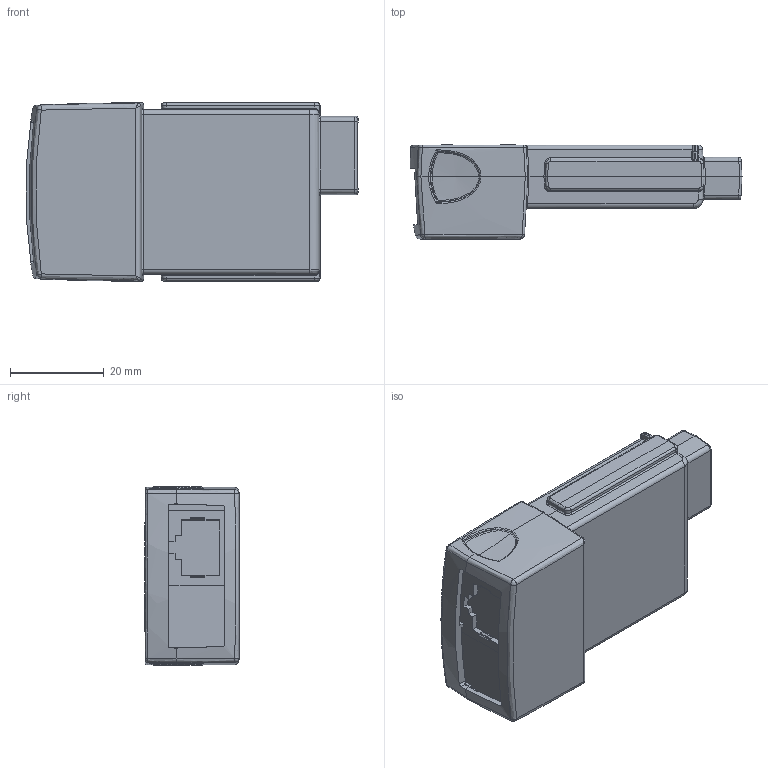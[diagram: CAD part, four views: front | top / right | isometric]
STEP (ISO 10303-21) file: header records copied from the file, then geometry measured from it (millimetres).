
FILE_DESCRIPTION (( 'STEP AP203' ), '1' );
FILE_NAME ('MJ20-xx1.STEP', '2022-02-08T12:03:44', ( '' ), ( '' ), 'SwSTEP 2.0', 'SolidWorks 2020', '' );
FILE_SCHEMA (( 'CONFIG_CONTROL_DESIGN' ));
Length unit declared in the file: millimetre
Products named in the file (1): MJ20-xx1
Bounding box: 70.79 x 20.05 x 38.08 mm (x, y, z)
Volume: 35693 mm3; surface area: 9766.4 mm2
Topology: 1 solids, 11 shells, 829 faces, 2096 edges, 1275 vertices
Faces by surface type: plane 356, bspline 261, cylinder 173, sphere 22, torus 9, cone 8
Entity records: 31654 total; most frequent: CARTESIAN_POINT 14303, ORIENTED_EDGE 4120, DIRECTION 2818, EDGE_CURVE 2060, VERTEX_POINT 1275, LINE 1070, VECTOR 1070, AXIS2_PLACEMENT_3D 874
